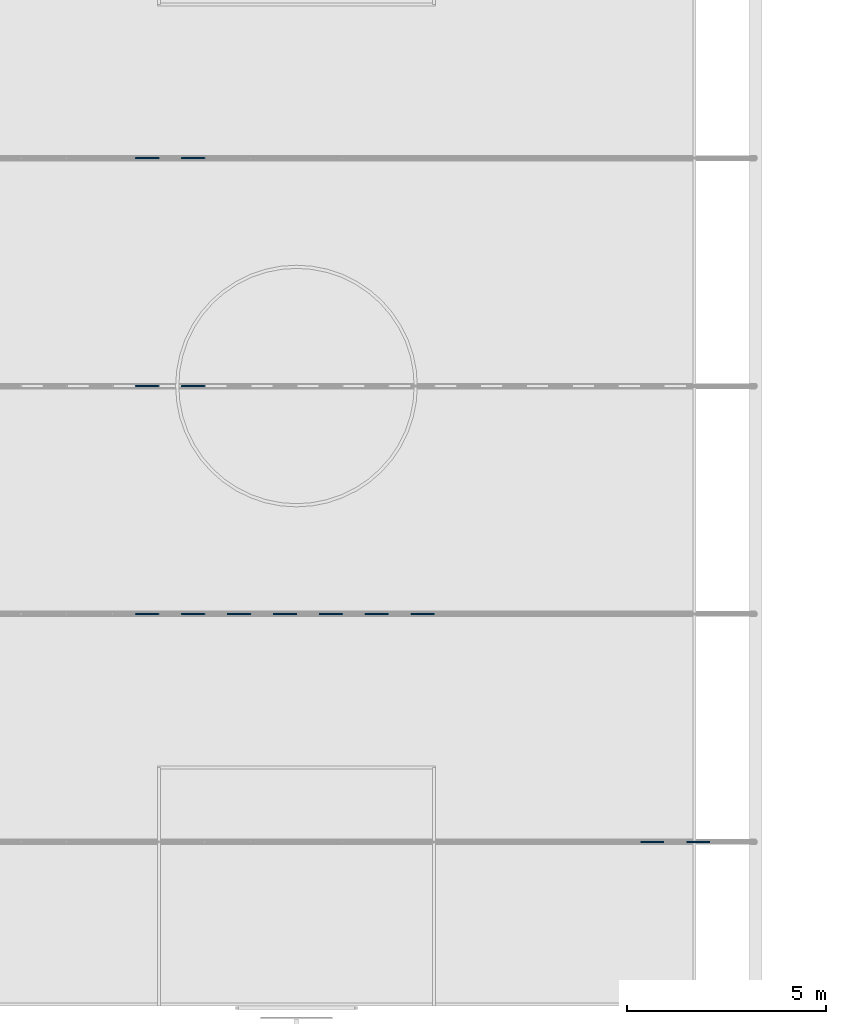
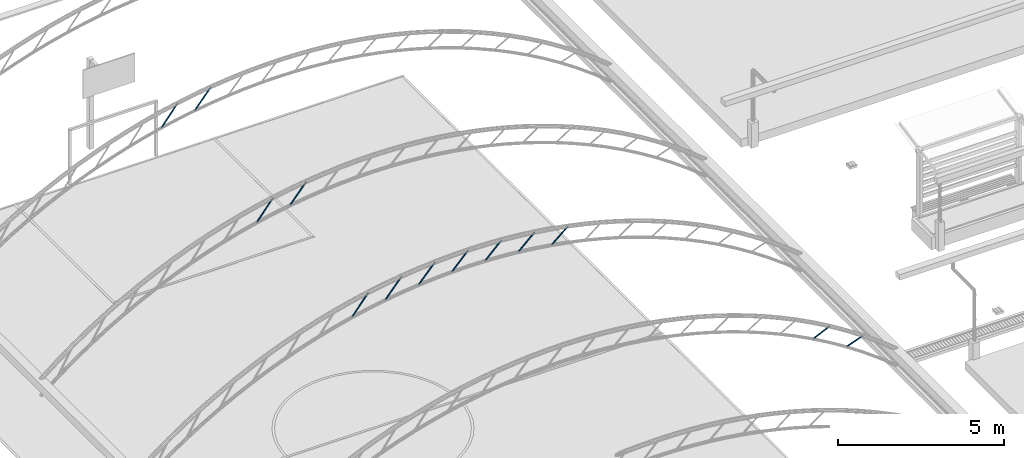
# One storey, part 19 of 90: 13 beams.
"""IFC2X3 building model written with IfcOpenShell, lengths in metres."""

from ifc_helpers import new_model, si_unit, origin, origin_with_axes, place, context, subcontext, project, spatial, faceted_brep, element, save


model = new_model("IFC2X3")

# Units and contexts
model_context = context("Model", 3, precision=1e-05, world=origin_with_axes())
body_context = subcontext(model_context, "Body", "Model", "MODEL_VIEW")
ifc_project = project(units=[si_unit("LENGTHUNIT", "METRE"), si_unit("AREAUNIT", "SQUARE_METRE"), si_unit("VOLUMEUNIT", "CUBIC_METRE"), si_unit("PLANEANGLEUNIT", "RADIAN")], contexts=[model_context])

# Site, building, storey
site_placement = place(None, origin_with_axes())
site = spatial("IfcSite", under=ifc_project, at=site_placement, Name="Predio Los Mangos - Morales, San Martín", CompositionType="ELEMENT")
building_placement = place(site_placement, origin())
building = spatial("IfcBuilding", under=site, at=building_placement, Name="Hogar de Refugio Temporal", CompositionType="ELEMENT")
storey_placement = place(building_placement, origin())
storey = spatial("IfcBuildingStorey", under=building, at=storey_placement, Name="NIVEL 1 (NPT +0.00)", CompositionType="ELEMENT", Elevation=0.0)

# Beams
beam_1_placement = place(storey_placement, origin())
element("IfcBeam", 1, at=beam_1_placement, inside=storey, Name="diag", ObjectType="Viga", context=body_context, shape_type="Brep", body=[
    faceted_brep([(23.7072, 98.355, 7.3372), (24.2847, 98.355, 7.6056), (24.29, 98.3583, 7.5943), (23.7125, 98.3583, 7.3259), (23.7034, 98.3458, 7.3455), (24.2809, 98.3458, 7.6139), (23.702, 98.3333, 7.3485), (24.2795, 98.3333, 7.617), (23.7034, 98.3208, 7.3455), (24.2809, 98.3208, 7.6139), (23.7072, 98.3117, 7.3372), (24.2847, 98.3117, 7.6056), (23.7125, 98.3083, 7.3259), (24.29, 98.3083, 7.5943), (23.7178, 98.3117, 7.3145), (24.2953, 98.3117, 7.583), (23.7216, 98.3208, 7.3062), (24.2991, 98.3208, 7.5747), (23.723, 98.3333, 7.3032), (24.3005, 98.3333, 7.5716), (23.7216, 98.3458, 7.3062), (24.2991, 98.3458, 7.5747), (23.7178, 98.355, 7.3145), (24.2953, 98.355, 7.583), (23.7116, 98.3371, 7.3278), (23.7125, 98.3376, 7.3259), (24.29, 98.3376, 7.5943), (24.2891, 98.3371, 7.5963), (23.7109, 98.3355, 7.3292), (24.2884, 98.3355, 7.5977), (23.7107, 98.3333, 7.3298), (24.2882, 98.3333, 7.5982), (23.7109, 98.3312, 7.3292), (24.2884, 98.3312, 7.5977), (23.7116, 98.3296, 7.3278), (24.2891, 98.3296, 7.5963), (23.7125, 98.329, 7.3259), (24.29, 98.329, 7.5943), (23.7134, 98.3296, 7.3239), (24.2909, 98.3296, 7.5924), (23.7141, 98.3312, 7.3225), (24.2916, 98.3312, 7.5909), (23.7143, 98.3333, 7.322), (24.2918, 98.3333, 7.5904), (23.7141, 98.3355, 7.3225), (24.2916, 98.3355, 7.5909), (23.7134, 98.3371, 7.3239), (24.2909, 98.3371, 7.5924)], [[[0, 1, 2, 3]], [[4, 5, 1, 0]], [[6, 7, 5, 4]], [[8, 9, 7, 6]], [[10, 11, 9, 8]], [[12, 13, 11, 10]], [[14, 15, 13, 12]], [[16, 17, 15, 14]], [[18, 19, 17, 16]], [[20, 21, 19, 18]], [[22, 23, 21, 20]], [[3, 2, 23, 22]], [[24, 25, 26, 27]], [[28, 24, 27, 29]], [[30, 28, 29, 31]], [[32, 30, 31, 33]], [[34, 32, 33, 35]], [[36, 34, 35, 37]], [[38, 36, 37, 39]], [[40, 38, 39, 41]], [[42, 40, 41, 43]], [[44, 42, 43, 45]], [[46, 44, 45, 47]], [[25, 46, 47, 26]], [[11, 13, 37, 35]], [[21, 23, 47, 45]], [[4, 0, 24, 28]], [[14, 12, 36, 38]], [[3, 22, 46, 25]], [[7, 9, 33, 31]], [[17, 19, 43, 41]], [[23, 2, 26, 47]], [[10, 8, 32, 34]], [[20, 18, 42, 44]], [[1, 5, 29, 27]], [[13, 15, 39, 37]], [[6, 4, 28, 30]], [[16, 14, 38, 40]], [[0, 3, 25, 24]], [[9, 11, 35, 33]], [[19, 21, 45, 43]], [[12, 10, 34, 36]], [[22, 20, 44, 46]], [[5, 7, 31, 29]], [[15, 17, 41, 39]], [[2, 1, 27, 26]], [[8, 6, 30, 32]], [[18, 16, 40, 42]]]),
])
beam_2_placement = place(storey_placement, origin())
element("IfcBeam", 2, at=beam_2_placement, inside=storey, Name="diag", ObjectType="Viga", context=body_context, shape_type="Brep", body=[
    faceted_brep([(24.8633, 98.355, 6.6451), (25.4408, 98.355, 6.8526), (25.445, 98.3583, 6.8408), (24.8675, 98.3583, 6.6333), (24.8602, 98.3458, 6.6537), (25.4377, 98.3458, 6.8612), (24.859, 98.3333, 6.6569), (25.4365, 98.3333, 6.8643), (24.8602, 98.3208, 6.6537), (25.4377, 98.3208, 6.8612), (24.8633, 98.3117, 6.6451), (25.4408, 98.3117, 6.8526), (24.8675, 98.3083, 6.6333), (25.445, 98.3083, 6.8408), (24.8717, 98.3117, 6.6216), (25.4492, 98.3117, 6.829), (24.8748, 98.3208, 6.613), (25.4523, 98.3208, 6.8204), (24.876, 98.3333, 6.6098), (25.4535, 98.3333, 6.8173), (24.8748, 98.3458, 6.613), (25.4523, 98.3458, 6.8204), (24.8717, 98.355, 6.6216), (25.4492, 98.355, 6.829), (24.8668, 98.3371, 6.6354), (24.8675, 98.3376, 6.6333), (25.445, 98.3376, 6.8408), (25.4443, 98.3371, 6.8428), (24.8662, 98.3355, 6.6368), (25.4437, 98.3355, 6.8443), (24.866, 98.3333, 6.6374), (25.4435, 98.3333, 6.8449), (24.8662, 98.3312, 6.6368), (25.4437, 98.3312, 6.8443), (24.8668, 98.3296, 6.6354), (25.4443, 98.3296, 6.8428), (24.8675, 98.329, 6.6333), (25.445, 98.329, 6.8408), (24.8682, 98.3296, 6.6313), (25.4457, 98.3296, 6.8388), (24.8688, 98.3312, 6.6298), (25.4463, 98.3312, 6.8373), (24.869, 98.3333, 6.6293), (25.4465, 98.3333, 6.8368), (24.8688, 98.3355, 6.6298), (25.4463, 98.3355, 6.8373), (24.8682, 98.3371, 6.6313), (25.4457, 98.3371, 6.8388)], [[[0, 1, 2, 3]], [[4, 5, 1, 0]], [[6, 7, 5, 4]], [[8, 9, 7, 6]], [[10, 11, 9, 8]], [[12, 13, 11, 10]], [[14, 15, 13, 12]], [[16, 17, 15, 14]], [[18, 19, 17, 16]], [[20, 21, 19, 18]], [[22, 23, 21, 20]], [[3, 2, 23, 22]], [[24, 25, 26, 27]], [[28, 24, 27, 29]], [[30, 28, 29, 31]], [[32, 30, 31, 33]], [[34, 32, 33, 35]], [[36, 34, 35, 37]], [[38, 36, 37, 39]], [[40, 38, 39, 41]], [[42, 40, 41, 43]], [[44, 42, 43, 45]], [[46, 44, 45, 47]], [[25, 46, 47, 26]], [[11, 13, 37, 35]], [[21, 23, 47, 45]], [[4, 0, 24, 28]], [[14, 12, 36, 38]], [[3, 22, 46, 25]], [[7, 9, 33, 31]], [[17, 19, 43, 41]], [[23, 2, 26, 47]], [[10, 8, 32, 34]], [[20, 18, 42, 44]], [[1, 5, 29, 27]], [[13, 15, 39, 37]], [[6, 4, 28, 30]], [[16, 14, 38, 40]], [[0, 3, 25, 24]], [[9, 11, 35, 33]], [[19, 21, 45, 43]], [[12, 10, 34, 36]], [[22, 20, 44, 46]], [[5, 7, 31, 29]], [[15, 17, 41, 39]], [[2, 1, 27, 26]], [[8, 6, 30, 32]], [[18, 16, 40, 42]]]),
])
beam_3_placement = place(storey_placement, origin())
element("IfcBeam", 3, at=beam_3_placement, inside=storey, Name="diag", ObjectType="Viga", context=body_context, shape_type="Brep", body=[
    faceted_brep([(10.9977, 104.0883, 9.0975), (11.5752, 104.0883, 9.8208), (11.585, 104.0917, 9.813), (11.0075, 104.0917, 9.0897), (10.9906, 104.0792, 9.1032), (11.5681, 104.0792, 9.8265), (10.988, 104.0667, 9.1053), (11.5655, 104.0667, 9.8286), (10.9906, 104.0542, 9.1032), (11.5681, 104.0542, 9.8265), (10.9977, 104.045, 9.0975), (11.5752, 104.045, 9.8208), (11.0075, 104.0417, 9.0897), (11.585, 104.0417, 9.813), (11.0173, 104.045, 9.0819), (11.5948, 104.045, 9.8052), (11.0244, 104.0542, 9.0762), (11.6019, 104.0542, 9.7995), (11.027, 104.0667, 9.0741), (11.6045, 104.0667, 9.7974), (11.0244, 104.0792, 9.0762), (11.6019, 104.0792, 9.7995), (11.0173, 104.0883, 9.0819), (11.5948, 104.0883, 9.8052), (11.0058, 104.0704, 9.091), (11.0075, 104.071, 9.0897), (11.585, 104.071, 9.813), (11.5833, 104.0704, 9.8143), (11.0046, 104.0688, 9.092), (11.5821, 104.0688, 9.8153), (11.0041, 104.0667, 9.0924), (11.5816, 104.0667, 9.8157), (11.0046, 104.0645, 9.092), (11.5821, 104.0645, 9.8153), (11.0058, 104.0629, 9.091), (11.5833, 104.0629, 9.8143), (11.0075, 104.0624, 9.0897), (11.585, 104.0624, 9.813), (11.0092, 104.0629, 9.0884), (11.5867, 104.0629, 9.8116), (11.0104, 104.0645, 9.0874), (11.5879, 104.0645, 9.8107), (11.0109, 104.0667, 9.087), (11.5884, 104.0667, 9.8103), (11.0104, 104.0688, 9.0874), (11.5879, 104.0688, 9.8107), (11.0092, 104.0704, 9.0884), (11.5867, 104.0704, 9.8116)], [[[0, 1, 2, 3]], [[4, 5, 1, 0]], [[6, 7, 5, 4]], [[8, 9, 7, 6]], [[10, 11, 9, 8]], [[12, 13, 11, 10]], [[14, 15, 13, 12]], [[16, 17, 15, 14]], [[18, 19, 17, 16]], [[20, 21, 19, 18]], [[22, 23, 21, 20]], [[3, 2, 23, 22]], [[24, 25, 26, 27]], [[28, 24, 27, 29]], [[30, 28, 29, 31]], [[32, 30, 31, 33]], [[34, 32, 33, 35]], [[36, 34, 35, 37]], [[38, 36, 37, 39]], [[40, 38, 39, 41]], [[42, 40, 41, 43]], [[44, 42, 43, 45]], [[46, 44, 45, 47]], [[25, 46, 47, 26]], [[9, 11, 35, 33]], [[19, 21, 45, 43]], [[12, 10, 34, 36]], [[22, 20, 44, 46]], [[5, 7, 31, 29]], [[15, 17, 41, 39]], [[2, 1, 27, 26]], [[8, 6, 30, 32]], [[18, 16, 40, 42]], [[11, 13, 37, 35]], [[21, 23, 47, 45]], [[4, 0, 24, 28]], [[14, 12, 36, 38]], [[3, 22, 46, 25]], [[7, 9, 33, 31]], [[17, 19, 43, 41]], [[23, 2, 26, 47]], [[10, 8, 32, 34]], [[20, 18, 42, 44]], [[1, 5, 29, 27]], [[13, 15, 39, 37]], [[6, 4, 28, 30]], [[16, 14, 38, 40]], [[0, 3, 25, 24]]]),
])
beam_4_placement = place(storey_placement, origin())
element("IfcBeam", 4, at=beam_4_placement, inside=storey, Name="diag", ObjectType="Viga", context=body_context, shape_type="Brep", body=[
    faceted_brep([(12.1529, 104.0883, 9.3247), (12.7304, 104.0883, 10.0091), (12.74, 104.0917, 10.001), (12.1625, 104.0917, 9.3166), (12.146, 104.0792, 9.3306), (12.7235, 104.0792, 10.015), (12.1434, 104.0667, 9.3328), (12.7209, 104.0667, 10.0171), (12.146, 104.0542, 9.3306), (12.7235, 104.0542, 10.015), (12.1529, 104.045, 9.3247), (12.7304, 104.045, 10.0091), (12.1625, 104.0417, 9.3166), (12.74, 104.0417, 10.001), (12.1721, 104.045, 9.3086), (12.7496, 104.045, 9.9929), (12.179, 104.0542, 9.3027), (12.7565, 104.0542, 9.987), (12.1816, 104.0667, 9.3005), (12.7591, 104.0667, 9.9849), (12.179, 104.0792, 9.3027), (12.7565, 104.0792, 9.987), (12.1721, 104.0883, 9.3086), (12.7496, 104.0883, 9.9929), (12.1609, 104.0704, 9.318), (12.1625, 104.071, 9.3166), (12.74, 104.071, 10.001), (12.7384, 104.0704, 10.0024), (12.1597, 104.0688, 9.319), (12.7372, 104.0688, 10.0034), (12.1592, 104.0667, 9.3194), (12.7367, 104.0667, 10.0038), (12.1597, 104.0645, 9.319), (12.7372, 104.0645, 10.0034), (12.1609, 104.0629, 9.318), (12.7384, 104.0629, 10.0024), (12.1625, 104.0624, 9.3166), (12.74, 104.0624, 10.001), (12.1641, 104.0629, 9.3153), (12.7416, 104.0629, 9.9996), (12.1653, 104.0645, 9.3142), (12.7428, 104.0645, 9.9986), (12.1658, 104.0667, 9.3139), (12.7433, 104.0667, 9.9982), (12.1653, 104.0688, 9.3142), (12.7428, 104.0688, 9.9986), (12.1641, 104.0704, 9.3153), (12.7416, 104.0704, 9.9996)], [[[0, 1, 2, 3]], [[4, 5, 1, 0]], [[6, 7, 5, 4]], [[8, 9, 7, 6]], [[10, 11, 9, 8]], [[12, 13, 11, 10]], [[14, 15, 13, 12]], [[16, 17, 15, 14]], [[18, 19, 17, 16]], [[20, 21, 19, 18]], [[22, 23, 21, 20]], [[3, 2, 23, 22]], [[24, 25, 26, 27]], [[28, 24, 27, 29]], [[30, 28, 29, 31]], [[32, 30, 31, 33]], [[34, 32, 33, 35]], [[36, 34, 35, 37]], [[38, 36, 37, 39]], [[40, 38, 39, 41]], [[42, 40, 41, 43]], [[44, 42, 43, 45]], [[46, 44, 45, 47]], [[25, 46, 47, 26]], [[9, 11, 35, 33]], [[19, 21, 45, 43]], [[12, 10, 34, 36]], [[22, 20, 44, 46]], [[5, 7, 31, 29]], [[15, 17, 41, 39]], [[2, 1, 27, 26]], [[8, 6, 30, 32]], [[18, 16, 40, 42]], [[11, 13, 37, 35]], [[21, 23, 47, 45]], [[4, 0, 24, 28]], [[14, 12, 36, 38]], [[3, 22, 46, 25]], [[7, 9, 33, 31]], [[17, 19, 43, 41]], [[23, 2, 26, 47]], [[10, 8, 32, 34]], [[20, 18, 42, 44]], [[1, 5, 29, 27]], [[13, 15, 39, 37]], [[6, 4, 28, 30]], [[16, 14, 38, 40]], [[0, 3, 25, 24]]]),
])
beam_5_placement = place(storey_placement, origin())
element("IfcBeam", 5, at=beam_5_placement, inside=storey, Name="diag", ObjectType="Viga", context=body_context, shape_type="Brep", body=[
    faceted_brep([(13.3082, 104.0883, 9.4747), (13.8857, 104.0883, 10.1212), (13.895, 104.0917, 10.1129), (13.3175, 104.0917, 9.4663), (13.3014, 104.0792, 9.4808), (13.8789, 104.0792, 10.1273), (13.2989, 104.0667, 9.483), (13.8764, 104.0667, 10.1295), (13.3014, 104.0542, 9.4808), (13.8789, 104.0542, 10.1273), (13.3082, 104.045, 9.4747), (13.8857, 104.045, 10.1212), (13.3175, 104.0417, 9.4663), (13.895, 104.0417, 10.1129), (13.3268, 104.045, 9.458), (13.9043, 104.045, 10.1045), (13.3336, 104.0542, 9.4519), (13.9111, 104.0542, 10.0984), (13.3361, 104.0667, 9.4497), (13.9136, 104.0667, 10.0962), (13.3336, 104.0792, 9.4519), (13.9111, 104.0792, 10.0984), (13.3268, 104.0883, 9.458), (13.9043, 104.0883, 10.1045), (13.3159, 104.0704, 9.4678), (13.3175, 104.071, 9.4663), (13.895, 104.071, 10.1129), (13.8934, 104.0704, 10.1143), (13.3147, 104.0688, 9.4688), (13.8922, 104.0688, 10.1153), (13.3143, 104.0667, 9.4692), (13.8918, 104.0667, 10.1157), (13.3147, 104.0645, 9.4688), (13.8922, 104.0645, 10.1153), (13.3159, 104.0629, 9.4678), (13.8934, 104.0629, 10.1143), (13.3175, 104.0624, 9.4663), (13.895, 104.0624, 10.1129), (13.3191, 104.0629, 9.4649), (13.8966, 104.0629, 10.1114), (13.3203, 104.0645, 9.4639), (13.8978, 104.0645, 10.1104), (13.3207, 104.0667, 9.4635), (13.8982, 104.0667, 10.11), (13.3203, 104.0688, 9.4639), (13.8978, 104.0688, 10.1104), (13.3191, 104.0704, 9.4649), (13.8966, 104.0704, 10.1114)], [[[0, 1, 2, 3]], [[4, 5, 1, 0]], [[6, 7, 5, 4]], [[8, 9, 7, 6]], [[10, 11, 9, 8]], [[12, 13, 11, 10]], [[14, 15, 13, 12]], [[16, 17, 15, 14]], [[18, 19, 17, 16]], [[20, 21, 19, 18]], [[22, 23, 21, 20]], [[3, 2, 23, 22]], [[24, 25, 26, 27]], [[28, 24, 27, 29]], [[30, 28, 29, 31]], [[32, 30, 31, 33]], [[34, 32, 33, 35]], [[36, 34, 35, 37]], [[38, 36, 37, 39]], [[40, 38, 39, 41]], [[42, 40, 41, 43]], [[44, 42, 43, 45]], [[46, 44, 45, 47]], [[25, 46, 47, 26]], [[9, 11, 35, 33]], [[19, 21, 45, 43]], [[12, 10, 34, 36]], [[22, 20, 44, 46]], [[5, 7, 31, 29]], [[15, 17, 41, 39]], [[2, 1, 27, 26]], [[8, 6, 30, 32]], [[18, 16, 40, 42]], [[11, 13, 37, 35]], [[21, 23, 47, 45]], [[4, 0, 24, 28]], [[14, 12, 36, 38]], [[3, 22, 46, 25]], [[7, 9, 33, 31]], [[17, 19, 43, 41]], [[23, 2, 26, 47]], [[10, 8, 32, 34]], [[20, 18, 42, 44]], [[1, 5, 29, 27]], [[13, 15, 39, 37]], [[6, 4, 28, 30]], [[16, 14, 38, 40]], [[0, 3, 25, 24]]]),
])
beam_6_placement = place(storey_placement, origin())
element("IfcBeam", 6, at=beam_6_placement, inside=storey, Name="diag", ObjectType="Viga", context=body_context, shape_type="Brep", body=[
    faceted_brep([(14.4634, 104.0883, 9.5493), (15.0409, 104.0883, 10.1586), (15.05, 104.0917, 10.15), (14.4725, 104.0917, 9.5407), (14.4568, 104.0792, 9.5556), (15.0343, 104.0792, 10.1649), (14.4544, 104.0667, 9.5579), (15.0319, 104.0667, 10.1672), (14.4568, 104.0542, 9.5556), (15.0343, 104.0542, 10.1649), (14.4634, 104.045, 9.5493), (15.0409, 104.045, 10.1586), (14.4725, 104.0417, 9.5407), (15.05, 104.0417, 10.15), (14.4816, 104.045, 9.5321), (15.0591, 104.045, 10.1414), (14.4882, 104.0542, 9.5258), (15.0657, 104.0542, 10.1351), (14.4906, 104.0667, 9.5235), (15.0681, 104.0667, 10.1328), (14.4882, 104.0792, 9.5258), (15.0657, 104.0792, 10.1351), (14.4816, 104.0883, 9.5321), (15.0591, 104.0883, 10.1414), (14.4709, 104.0704, 9.5422), (14.4725, 104.071, 9.5407), (15.05, 104.071, 10.15), (15.0484, 104.0704, 10.1515), (14.4698, 104.0688, 9.5433), (15.0473, 104.0688, 10.1526), (14.4694, 104.0667, 9.5437), (15.0469, 104.0667, 10.153), (14.4698, 104.0645, 9.5433), (15.0473, 104.0645, 10.1526), (14.4709, 104.0629, 9.5422), (15.0484, 104.0629, 10.1515), (14.4725, 104.0624, 9.5407), (15.05, 104.0624, 10.15), (14.4741, 104.0629, 9.5392), (15.0516, 104.0629, 10.1485), (14.4752, 104.0645, 9.5382), (15.0527, 104.0645, 10.1474), (14.4756, 104.0667, 9.5378), (15.0531, 104.0667, 10.147), (14.4752, 104.0688, 9.5382), (15.0527, 104.0688, 10.1474), (14.4741, 104.0704, 9.5392), (15.0516, 104.0704, 10.1485)], [[[0, 1, 2, 3]], [[4, 5, 1, 0]], [[6, 7, 5, 4]], [[8, 9, 7, 6]], [[10, 11, 9, 8]], [[12, 13, 11, 10]], [[14, 15, 13, 12]], [[16, 17, 15, 14]], [[18, 19, 17, 16]], [[20, 21, 19, 18]], [[22, 23, 21, 20]], [[3, 2, 23, 22]], [[24, 25, 26, 27]], [[28, 24, 27, 29]], [[30, 28, 29, 31]], [[32, 30, 31, 33]], [[34, 32, 33, 35]], [[36, 34, 35, 37]], [[38, 36, 37, 39]], [[40, 38, 39, 41]], [[42, 40, 41, 43]], [[44, 42, 43, 45]], [[46, 44, 45, 47]], [[25, 46, 47, 26]], [[9, 11, 35, 33]], [[19, 21, 45, 43]], [[12, 10, 34, 36]], [[22, 20, 44, 46]], [[5, 7, 31, 29]], [[15, 17, 41, 39]], [[2, 1, 27, 26]], [[8, 6, 30, 32]], [[18, 16, 40, 42]], [[11, 13, 37, 35]], [[21, 23, 47, 45]], [[4, 0, 24, 28]], [[14, 12, 36, 38]], [[3, 22, 46, 25]], [[7, 9, 33, 31]], [[17, 19, 43, 41]], [[23, 2, 26, 47]], [[10, 8, 32, 34]], [[20, 18, 42, 44]], [[1, 5, 29, 27]], [[13, 15, 39, 37]], [[6, 4, 28, 30]], [[16, 14, 38, 40]], [[0, 3, 25, 24]]]),
])
beam_7_placement = place(storey_placement, origin())
element("IfcBeam", 7, at=beam_7_placement, inside=storey, Name="diag", ObjectType="Viga", context=body_context, shape_type="Brep", body=[
    faceted_brep([(15.6187, 104.0883, 9.5496), (16.1962, 104.0883, 10.1217), (16.205, 104.0917, 10.1129), (15.6275, 104.0917, 9.5407), (15.6123, 104.0792, 9.5561), (16.1898, 104.0792, 10.1282), (15.6099, 104.0667, 9.5585), (16.1874, 104.0667, 10.1306), (15.6123, 104.0542, 9.5561), (16.1898, 104.0542, 10.1282), (15.6187, 104.045, 9.5496), (16.1962, 104.045, 10.1217), (15.6275, 104.0417, 9.5407), (16.205, 104.0417, 10.1129), (15.6363, 104.045, 9.5318), (16.2138, 104.045, 10.104), (15.6427, 104.0542, 9.5253), (16.2202, 104.0542, 10.0975), (15.6451, 104.0667, 9.523), (16.2226, 104.0667, 10.0951), (15.6427, 104.0792, 9.5253), (16.2202, 104.0792, 10.0975), (15.6363, 104.0883, 9.5318), (16.2138, 104.0883, 10.104), (15.626, 104.0704, 9.5422), (15.6275, 104.071, 9.5407), (16.205, 104.071, 10.1129), (16.2035, 104.0704, 10.1144), (15.6249, 104.0688, 9.5434), (16.2024, 104.0688, 10.1155), (15.6245, 104.0667, 9.5438), (16.202, 104.0667, 10.1159), (15.6249, 104.0645, 9.5434), (16.2024, 104.0645, 10.1155), (15.626, 104.0629, 9.5422), (16.2035, 104.0629, 10.1144), (15.6275, 104.0624, 9.5407), (16.205, 104.0624, 10.1129), (15.629, 104.0629, 9.5392), (16.2065, 104.0629, 10.1113), (15.6301, 104.0645, 9.5381), (16.2076, 104.0645, 10.1102), (15.6305, 104.0667, 9.5377), (16.208, 104.0667, 10.1098), (15.6301, 104.0688, 9.5381), (16.2076, 104.0688, 10.1102), (15.629, 104.0704, 9.5392), (16.2065, 104.0704, 10.1113)], [[[0, 1, 2, 3]], [[4, 5, 1, 0]], [[6, 7, 5, 4]], [[8, 9, 7, 6]], [[10, 11, 9, 8]], [[12, 13, 11, 10]], [[14, 15, 13, 12]], [[16, 17, 15, 14]], [[18, 19, 17, 16]], [[20, 21, 19, 18]], [[22, 23, 21, 20]], [[3, 2, 23, 22]], [[24, 25, 26, 27]], [[28, 24, 27, 29]], [[30, 28, 29, 31]], [[32, 30, 31, 33]], [[34, 32, 33, 35]], [[36, 34, 35, 37]], [[38, 36, 37, 39]], [[40, 38, 39, 41]], [[42, 40, 41, 43]], [[44, 42, 43, 45]], [[46, 44, 45, 47]], [[25, 46, 47, 26]], [[9, 11, 35, 33]], [[19, 21, 45, 43]], [[12, 10, 34, 36]], [[22, 20, 44, 46]], [[5, 7, 31, 29]], [[15, 17, 41, 39]], [[2, 1, 27, 26]], [[8, 6, 30, 32]], [[18, 16, 40, 42]], [[11, 13, 37, 35]], [[21, 23, 47, 45]], [[4, 0, 24, 28]], [[14, 12, 36, 38]], [[3, 22, 46, 25]], [[7, 9, 33, 31]], [[17, 19, 43, 41]], [[23, 2, 26, 47]], [[10, 8, 32, 34]], [[20, 18, 42, 44]], [[1, 5, 29, 27]], [[13, 15, 39, 37]], [[6, 4, 28, 30]], [[16, 14, 38, 40]], [[0, 3, 25, 24]]]),
])
beam_8_placement = place(storey_placement, origin())
element("IfcBeam", 8, at=beam_8_placement, inside=storey, Name="diag", ObjectType="Viga", context=body_context, shape_type="Brep", body=[
    faceted_brep([(16.774, 104.0883, 9.4755), (17.3515, 104.0883, 10.0102), (17.36, 104.0917, 10.001), (16.7825, 104.0917, 9.4663), (16.7678, 104.0792, 9.4822), (17.3453, 104.0792, 10.0169), (16.7655, 104.0667, 9.4847), (17.343, 104.0667, 10.0193), (16.7678, 104.0542, 9.4822), (17.3453, 104.0542, 10.0169), (16.774, 104.045, 9.4755), (17.3515, 104.045, 10.0102), (16.7825, 104.0417, 9.4663), (17.36, 104.0417, 10.001), (16.791, 104.045, 9.4572), (17.3685, 104.045, 9.9918), (16.7972, 104.0542, 9.4505), (17.3747, 104.0542, 9.9851), (16.7995, 104.0667, 9.448), (17.377, 104.0667, 9.9827), (16.7972, 104.0792, 9.4505), (17.3747, 104.0792, 9.9851), (16.791, 104.0883, 9.4572), (17.3685, 104.0883, 9.9918), (16.781, 104.0704, 9.4679), (16.7825, 104.071, 9.4663), (17.36, 104.071, 10.001), (17.3585, 104.0704, 10.0026), (16.78, 104.0688, 9.4691), (17.3575, 104.0688, 10.0037), (16.7796, 104.0667, 9.4695), (17.3571, 104.0667, 10.0042), (16.78, 104.0645, 9.4691), (17.3575, 104.0645, 10.0037), (16.781, 104.0629, 9.4679), (17.3585, 104.0629, 10.0026), (16.7825, 104.0624, 9.4663), (17.36, 104.0624, 10.001), (16.784, 104.0629, 9.4648), (17.3615, 104.0629, 9.9994), (16.785, 104.0645, 9.4636), (17.3625, 104.0645, 9.9983), (16.7854, 104.0667, 9.4632), (17.3629, 104.0667, 9.9979), (16.785, 104.0688, 9.4636), (17.3625, 104.0688, 9.9983), (16.784, 104.0704, 9.4648), (17.3615, 104.0704, 9.9994)], [[[0, 1, 2, 3]], [[4, 5, 1, 0]], [[6, 7, 5, 4]], [[8, 9, 7, 6]], [[10, 11, 9, 8]], [[12, 13, 11, 10]], [[14, 15, 13, 12]], [[16, 17, 15, 14]], [[18, 19, 17, 16]], [[20, 21, 19, 18]], [[22, 23, 21, 20]], [[3, 2, 23, 22]], [[24, 25, 26, 27]], [[28, 24, 27, 29]], [[30, 28, 29, 31]], [[32, 30, 31, 33]], [[34, 32, 33, 35]], [[36, 34, 35, 37]], [[38, 36, 37, 39]], [[40, 38, 39, 41]], [[42, 40, 41, 43]], [[44, 42, 43, 45]], [[46, 44, 45, 47]], [[25, 46, 47, 26]], [[9, 11, 35, 33]], [[19, 21, 45, 43]], [[12, 10, 34, 36]], [[22, 20, 44, 46]], [[5, 7, 31, 29]], [[15, 17, 41, 39]], [[2, 1, 27, 26]], [[8, 6, 30, 32]], [[18, 16, 40, 42]], [[11, 13, 37, 35]], [[21, 23, 47, 45]], [[4, 0, 24, 28]], [[14, 12, 36, 38]], [[3, 22, 46, 25]], [[7, 9, 33, 31]], [[17, 19, 43, 41]], [[23, 2, 26, 47]], [[10, 8, 32, 34]], [[20, 18, 42, 44]], [[1, 5, 29, 27]], [[13, 15, 39, 37]], [[6, 4, 28, 30]], [[16, 14, 38, 40]], [[0, 3, 25, 24]]]),
])
beam_9_placement = place(storey_placement, origin())
element("IfcBeam", 9, at=beam_9_placement, inside=storey, Name="diag", ObjectType="Viga", context=body_context, shape_type="Brep", body=[
    faceted_brep([(17.9294, 104.0883, 9.3261), (18.5069, 104.0883, 9.8225), (18.515, 104.0917, 9.813), (17.9375, 104.0917, 9.3166), (17.9234, 104.0792, 9.3331), (18.5009, 104.0792, 9.8294), (17.9212, 104.0667, 9.3356), (18.4987, 104.0667, 9.8319), (17.9234, 104.0542, 9.3331), (18.5009, 104.0542, 9.8294), (17.9294, 104.045, 9.3261), (18.5069, 104.045, 9.8225), (17.9375, 104.0417, 9.3166), (18.515, 104.0417, 9.813), (17.9456, 104.045, 9.3072), (18.5231, 104.045, 9.8035), (17.9516, 104.0542, 9.3002), (18.5291, 104.0542, 9.7966), (17.9538, 104.0667, 9.2977), (18.5313, 104.0667, 9.794), (17.9516, 104.0792, 9.3002), (18.5291, 104.0792, 9.7966), (17.9456, 104.0883, 9.3072), (18.5231, 104.0883, 9.8035), (17.9361, 104.0704, 9.3183), (17.9375, 104.071, 9.3166), (18.515, 104.071, 9.813), (18.5136, 104.0704, 9.8146), (17.9351, 104.0688, 9.3195), (18.5126, 104.0688, 9.8158), (17.9347, 104.0667, 9.3199), (18.5122, 104.0667, 9.8162), (17.9351, 104.0645, 9.3195), (18.5126, 104.0645, 9.8158), (17.9361, 104.0629, 9.3183), (18.5136, 104.0629, 9.8146), (17.9375, 104.0624, 9.3166), (18.515, 104.0624, 9.813), (17.9389, 104.0629, 9.315), (18.5164, 104.0629, 9.8114), (17.9399, 104.0645, 9.3138), (18.5174, 104.0645, 9.8102), (17.9403, 104.0667, 9.3134), (18.5178, 104.0667, 9.8097), (17.9399, 104.0688, 9.3138), (18.5174, 104.0688, 9.8102), (17.9389, 104.0704, 9.315), (18.5164, 104.0704, 9.8114)], [[[0, 1, 2, 3]], [[4, 5, 1, 0]], [[6, 7, 5, 4]], [[8, 9, 7, 6]], [[10, 11, 9, 8]], [[12, 13, 11, 10]], [[14, 15, 13, 12]], [[16, 17, 15, 14]], [[18, 19, 17, 16]], [[20, 21, 19, 18]], [[22, 23, 21, 20]], [[3, 2, 23, 22]], [[24, 25, 26, 27]], [[28, 24, 27, 29]], [[30, 28, 29, 31]], [[32, 30, 31, 33]], [[34, 32, 33, 35]], [[36, 34, 35, 37]], [[38, 36, 37, 39]], [[40, 38, 39, 41]], [[42, 40, 41, 43]], [[44, 42, 43, 45]], [[46, 44, 45, 47]], [[25, 46, 47, 26]], [[9, 11, 35, 33]], [[19, 21, 45, 43]], [[12, 10, 34, 36]], [[22, 20, 44, 46]], [[5, 7, 31, 29]], [[15, 17, 41, 39]], [[2, 1, 27, 26]], [[8, 6, 30, 32]], [[18, 16, 40, 42]], [[11, 13, 37, 35]], [[21, 23, 47, 45]], [[4, 0, 24, 28]], [[14, 12, 36, 38]], [[3, 22, 46, 25]], [[7, 9, 33, 31]], [[17, 19, 43, 41]], [[23, 2, 26, 47]], [[10, 8, 32, 34]], [[20, 18, 42, 44]], [[1, 5, 29, 27]], [[13, 15, 39, 37]], [[6, 4, 28, 30]], [[16, 14, 38, 40]], [[0, 3, 25, 24]]]),
])
beam_10_placement = place(storey_placement, origin())
element("IfcBeam", 10, at=beam_10_placement, inside=storey, Name="diag", ObjectType="Viga", context=body_context, shape_type="Brep", body=[
    faceted_brep([(10.9977, 109.8217, 9.0975), (11.5752, 109.8217, 9.8208), (11.585, 109.825, 9.813), (11.0075, 109.825, 9.0897), (10.9906, 109.8125, 9.1032), (11.5681, 109.8125, 9.8265), (10.988, 109.8, 9.1053), (11.5655, 109.8, 9.8286), (10.9906, 109.7875, 9.1032), (11.5681, 109.7875, 9.8265), (10.9977, 109.7784, 9.0975), (11.5752, 109.7784, 9.8208), (11.0075, 109.775, 9.0897), (11.585, 109.775, 9.813), (11.0173, 109.7784, 9.0819), (11.5948, 109.7784, 9.8052), (11.0244, 109.7875, 9.0762), (11.6019, 109.7875, 9.7995), (11.027, 109.8, 9.0741), (11.6045, 109.8, 9.7974), (11.0244, 109.8125, 9.0762), (11.6019, 109.8125, 9.7995), (11.0173, 109.8217, 9.0819), (11.5948, 109.8217, 9.8052), (11.0058, 109.8037, 9.091), (11.0075, 109.8043, 9.0897), (11.585, 109.8043, 9.813), (11.5833, 109.8037, 9.8143), (11.0046, 109.8021, 9.092), (11.5821, 109.8021, 9.8153), (11.0041, 109.8, 9.0924), (11.5816, 109.8, 9.8157), (11.0046, 109.7979, 9.092), (11.5821, 109.7979, 9.8153), (11.0058, 109.7963, 9.091), (11.5833, 109.7963, 9.8143), (11.0075, 109.7957, 9.0897), (11.585, 109.7957, 9.813), (11.0092, 109.7963, 9.0884), (11.5867, 109.7963, 9.8116), (11.0104, 109.7979, 9.0874), (11.5879, 109.7979, 9.8107), (11.0109, 109.8, 9.087), (11.5884, 109.8, 9.8103), (11.0104, 109.8021, 9.0874), (11.5879, 109.8021, 9.8107), (11.0092, 109.8037, 9.0884), (11.5867, 109.8037, 9.8116)], [[[0, 1, 2, 3]], [[4, 5, 1, 0]], [[6, 7, 5, 4]], [[8, 9, 7, 6]], [[10, 11, 9, 8]], [[12, 13, 11, 10]], [[14, 15, 13, 12]], [[16, 17, 15, 14]], [[18, 19, 17, 16]], [[20, 21, 19, 18]], [[22, 23, 21, 20]], [[3, 2, 23, 22]], [[24, 25, 26, 27]], [[28, 24, 27, 29]], [[30, 28, 29, 31]], [[32, 30, 31, 33]], [[34, 32, 33, 35]], [[36, 34, 35, 37]], [[38, 36, 37, 39]], [[40, 38, 39, 41]], [[42, 40, 41, 43]], [[44, 42, 43, 45]], [[46, 44, 45, 47]], [[25, 46, 47, 26]], [[5, 7, 31, 29]], [[15, 17, 41, 39]], [[2, 1, 27, 26]], [[8, 6, 30, 32]], [[18, 16, 40, 42]], [[11, 13, 37, 35]], [[21, 23, 47, 45]], [[4, 0, 24, 28]], [[14, 12, 36, 38]], [[3, 22, 46, 25]], [[7, 9, 33, 31]], [[17, 19, 43, 41]], [[23, 2, 26, 47]], [[10, 8, 32, 34]], [[20, 18, 42, 44]], [[1, 5, 29, 27]], [[13, 15, 39, 37]], [[6, 4, 28, 30]], [[16, 14, 38, 40]], [[0, 3, 25, 24]], [[9, 11, 35, 33]], [[19, 21, 45, 43]], [[12, 10, 34, 36]], [[22, 20, 44, 46]]]),
])
beam_11_placement = place(storey_placement, origin())
element("IfcBeam", 11, at=beam_11_placement, inside=storey, Name="diag", ObjectType="Viga", context=body_context, shape_type="Brep", body=[
    faceted_brep([(12.1529, 109.8217, 9.3247), (12.7304, 109.8217, 10.0091), (12.74, 109.825, 10.001), (12.1625, 109.825, 9.3166), (12.146, 109.8125, 9.3306), (12.7235, 109.8125, 10.015), (12.1434, 109.8, 9.3328), (12.7209, 109.8, 10.0171), (12.146, 109.7875, 9.3306), (12.7235, 109.7875, 10.015), (12.1529, 109.7784, 9.3247), (12.7304, 109.7784, 10.0091), (12.1625, 109.775, 9.3166), (12.74, 109.775, 10.001), (12.1721, 109.7784, 9.3086), (12.7496, 109.7784, 9.9929), (12.179, 109.7875, 9.3027), (12.7565, 109.7875, 9.987), (12.1816, 109.8, 9.3005), (12.7591, 109.8, 9.9849), (12.179, 109.8125, 9.3027), (12.7565, 109.8125, 9.987), (12.1721, 109.8217, 9.3086), (12.7496, 109.8217, 9.9929), (12.1609, 109.8037, 9.318), (12.1625, 109.8043, 9.3166), (12.74, 109.8043, 10.001), (12.7384, 109.8037, 10.0024), (12.1597, 109.8021, 9.319), (12.7372, 109.8021, 10.0034), (12.1592, 109.8, 9.3194), (12.7367, 109.8, 10.0038), (12.1597, 109.7979, 9.319), (12.7372, 109.7979, 10.0034), (12.1609, 109.7963, 9.318), (12.7384, 109.7963, 10.0024), (12.1625, 109.7957, 9.3166), (12.74, 109.7957, 10.001), (12.1641, 109.7963, 9.3153), (12.7416, 109.7963, 9.9996), (12.1653, 109.7979, 9.3142), (12.7428, 109.7979, 9.9986), (12.1658, 109.8, 9.3139), (12.7433, 109.8, 9.9982), (12.1653, 109.8021, 9.3142), (12.7428, 109.8021, 9.9986), (12.1641, 109.8037, 9.3153), (12.7416, 109.8037, 9.9996)], [[[0, 1, 2, 3]], [[4, 5, 1, 0]], [[6, 7, 5, 4]], [[8, 9, 7, 6]], [[10, 11, 9, 8]], [[12, 13, 11, 10]], [[14, 15, 13, 12]], [[16, 17, 15, 14]], [[18, 19, 17, 16]], [[20, 21, 19, 18]], [[22, 23, 21, 20]], [[3, 2, 23, 22]], [[24, 25, 26, 27]], [[28, 24, 27, 29]], [[30, 28, 29, 31]], [[32, 30, 31, 33]], [[34, 32, 33, 35]], [[36, 34, 35, 37]], [[38, 36, 37, 39]], [[40, 38, 39, 41]], [[42, 40, 41, 43]], [[44, 42, 43, 45]], [[46, 44, 45, 47]], [[25, 46, 47, 26]], [[5, 7, 31, 29]], [[15, 17, 41, 39]], [[2, 1, 27, 26]], [[8, 6, 30, 32]], [[18, 16, 40, 42]], [[11, 13, 37, 35]], [[21, 23, 47, 45]], [[4, 0, 24, 28]], [[14, 12, 36, 38]], [[3, 22, 46, 25]], [[7, 9, 33, 31]], [[17, 19, 43, 41]], [[23, 2, 26, 47]], [[10, 8, 32, 34]], [[20, 18, 42, 44]], [[1, 5, 29, 27]], [[13, 15, 39, 37]], [[6, 4, 28, 30]], [[16, 14, 38, 40]], [[0, 3, 25, 24]], [[9, 11, 35, 33]], [[19, 21, 45, 43]], [[12, 10, 34, 36]], [[22, 20, 44, 46]]]),
])
beam_12_placement = place(storey_placement, origin())
element("IfcBeam", 12, at=beam_12_placement, inside=storey, Name="diag", ObjectType="Viga", context=body_context, shape_type="Brep", body=[
    faceted_brep([(10.9977, 115.555, 9.0975), (11.5752, 115.555, 9.8208), (11.585, 115.5583, 9.813), (11.0075, 115.5583, 9.0897), (10.9906, 115.5458, 9.1032), (11.5681, 115.5458, 9.8265), (10.988, 115.5333, 9.1053), (11.5655, 115.5333, 9.8286), (10.9906, 115.5208, 9.1032), (11.5681, 115.5208, 9.8265), (10.9977, 115.5117, 9.0975), (11.5752, 115.5117, 9.8208), (11.0075, 115.5083, 9.0897), (11.585, 115.5083, 9.813), (11.0173, 115.5117, 9.0819), (11.5948, 115.5117, 9.8052), (11.0244, 115.5208, 9.0762), (11.6019, 115.5208, 9.7995), (11.027, 115.5333, 9.0741), (11.6045, 115.5333, 9.7974), (11.0244, 115.5458, 9.0762), (11.6019, 115.5458, 9.7995), (11.0173, 115.555, 9.0819), (11.5948, 115.555, 9.8052), (11.0058, 115.5371, 9.091), (11.0075, 115.5376, 9.0897), (11.585, 115.5376, 9.813), (11.5833, 115.5371, 9.8143), (11.0046, 115.5355, 9.092), (11.5821, 115.5355, 9.8153), (11.0041, 115.5333, 9.0924), (11.5816, 115.5333, 9.8157), (11.0046, 115.5312, 9.092), (11.5821, 115.5312, 9.8153), (11.0058, 115.5296, 9.091), (11.5833, 115.5296, 9.8143), (11.0075, 115.529, 9.0897), (11.585, 115.529, 9.813), (11.0092, 115.5296, 9.0884), (11.5867, 115.5296, 9.8116), (11.0104, 115.5312, 9.0874), (11.5879, 115.5312, 9.8107), (11.0109, 115.5333, 9.087), (11.5884, 115.5333, 9.8103), (11.0104, 115.5355, 9.0874), (11.5879, 115.5355, 9.8107), (11.0092, 115.5371, 9.0884), (11.5867, 115.5371, 9.8116)], [[[0, 1, 2, 3]], [[4, 5, 1, 0]], [[6, 7, 5, 4]], [[8, 9, 7, 6]], [[10, 11, 9, 8]], [[12, 13, 11, 10]], [[14, 15, 13, 12]], [[16, 17, 15, 14]], [[18, 19, 17, 16]], [[20, 21, 19, 18]], [[22, 23, 21, 20]], [[3, 2, 23, 22]], [[24, 25, 26, 27]], [[28, 24, 27, 29]], [[30, 28, 29, 31]], [[32, 30, 31, 33]], [[34, 32, 33, 35]], [[36, 34, 35, 37]], [[38, 36, 37, 39]], [[40, 38, 39, 41]], [[42, 40, 41, 43]], [[44, 42, 43, 45]], [[46, 44, 45, 47]], [[25, 46, 47, 26]], [[12, 10, 34, 36]], [[22, 20, 44, 46]], [[5, 7, 31, 29]], [[15, 17, 41, 39]], [[2, 1, 27, 26]], [[8, 6, 30, 32]], [[18, 16, 40, 42]], [[11, 13, 37, 35]], [[21, 23, 47, 45]], [[4, 0, 24, 28]], [[14, 12, 36, 38]], [[3, 22, 46, 25]], [[7, 9, 33, 31]], [[17, 19, 43, 41]], [[23, 2, 26, 47]], [[10, 8, 32, 34]], [[20, 18, 42, 44]], [[1, 5, 29, 27]], [[13, 15, 39, 37]], [[6, 4, 28, 30]], [[16, 14, 38, 40]], [[0, 3, 25, 24]], [[9, 11, 35, 33]], [[19, 21, 45, 43]]]),
])
beam_13_placement = place(storey_placement, origin())
element("IfcBeam", 13, at=beam_13_placement, inside=storey, Name="diag", ObjectType="Viga", context=body_context, shape_type="Brep", body=[
    faceted_brep([(12.1529, 115.555, 9.3247), (12.7304, 115.555, 10.0091), (12.74, 115.5583, 10.001), (12.1625, 115.5583, 9.3166), (12.146, 115.5458, 9.3306), (12.7235, 115.5458, 10.015), (12.1434, 115.5333, 9.3328), (12.7209, 115.5333, 10.0171), (12.146, 115.5208, 9.3306), (12.7235, 115.5208, 10.015), (12.1529, 115.5117, 9.3247), (12.7304, 115.5117, 10.0091), (12.1625, 115.5083, 9.3166), (12.74, 115.5083, 10.001), (12.1721, 115.5117, 9.3086), (12.7496, 115.5117, 9.9929), (12.179, 115.5208, 9.3027), (12.7565, 115.5208, 9.987), (12.1816, 115.5333, 9.3005), (12.7591, 115.5333, 9.9849), (12.179, 115.5458, 9.3027), (12.7565, 115.5458, 9.987), (12.1721, 115.555, 9.3086), (12.7496, 115.555, 9.9929), (12.1609, 115.5371, 9.318), (12.1625, 115.5376, 9.3166), (12.74, 115.5376, 10.001), (12.7384, 115.5371, 10.0024), (12.1597, 115.5355, 9.319), (12.7372, 115.5355, 10.0034), (12.1592, 115.5333, 9.3194), (12.7367, 115.5333, 10.0038), (12.1597, 115.5312, 9.319), (12.7372, 115.5312, 10.0034), (12.1609, 115.5296, 9.318), (12.7384, 115.5296, 10.0024), (12.1625, 115.529, 9.3166), (12.74, 115.529, 10.001), (12.1641, 115.5296, 9.3153), (12.7416, 115.5296, 9.9996), (12.1653, 115.5312, 9.3142), (12.7428, 115.5312, 9.9986), (12.1658, 115.5333, 9.3139), (12.7433, 115.5333, 9.9982), (12.1653, 115.5355, 9.3142), (12.7428, 115.5355, 9.9986), (12.1641, 115.5371, 9.3153), (12.7416, 115.5371, 9.9996)], [[[0, 1, 2, 3]], [[4, 5, 1, 0]], [[6, 7, 5, 4]], [[8, 9, 7, 6]], [[10, 11, 9, 8]], [[12, 13, 11, 10]], [[14, 15, 13, 12]], [[16, 17, 15, 14]], [[18, 19, 17, 16]], [[20, 21, 19, 18]], [[22, 23, 21, 20]], [[3, 2, 23, 22]], [[24, 25, 26, 27]], [[28, 24, 27, 29]], [[30, 28, 29, 31]], [[32, 30, 31, 33]], [[34, 32, 33, 35]], [[36, 34, 35, 37]], [[38, 36, 37, 39]], [[40, 38, 39, 41]], [[42, 40, 41, 43]], [[44, 42, 43, 45]], [[46, 44, 45, 47]], [[25, 46, 47, 26]], [[12, 10, 34, 36]], [[22, 20, 44, 46]], [[5, 7, 31, 29]], [[15, 17, 41, 39]], [[2, 1, 27, 26]], [[8, 6, 30, 32]], [[18, 16, 40, 42]], [[11, 13, 37, 35]], [[21, 23, 47, 45]], [[4, 0, 24, 28]], [[14, 12, 36, 38]], [[3, 22, 46, 25]], [[7, 9, 33, 31]], [[17, 19, 43, 41]], [[23, 2, 26, 47]], [[10, 8, 32, 34]], [[20, 18, 42, 44]], [[1, 5, 29, 27]], [[13, 15, 39, 37]], [[6, 4, 28, 30]], [[16, 14, 38, 40]], [[0, 3, 25, 24]], [[9, 11, 35, 33]], [[19, 21, 45, 43]]]),
])

save(model, "model.ifc")
